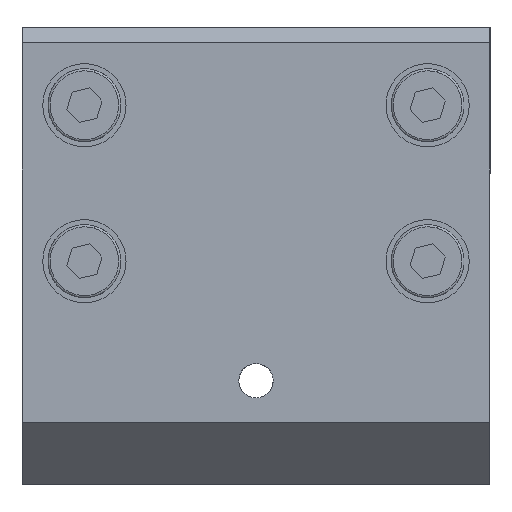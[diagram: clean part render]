
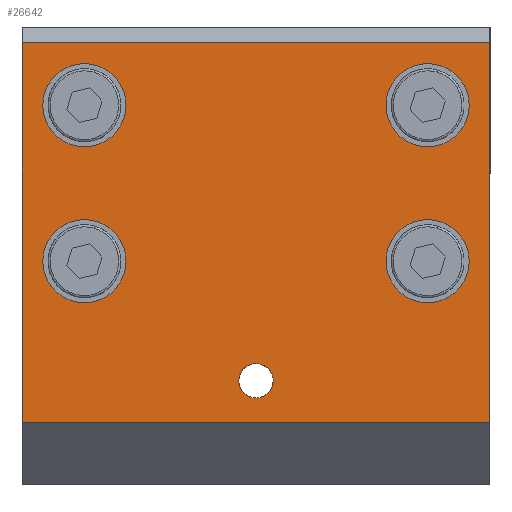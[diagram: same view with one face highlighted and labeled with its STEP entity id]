
A CAD part, front view. The second image highlights one B-rep face of the part: STEP entity #26642.
In plain terms, the highlighted planar face has unit normal (0, -1, 0).
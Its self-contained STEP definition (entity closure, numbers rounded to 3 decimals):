
#184 = CARTESIAN_POINT ( 'NONE',  ( -18.104, 9.692, 14.5 ) ) ;
#699 = EDGE_LOOP ( 'NONE', ( #26012, #5736 ) ) ;
#1415 = VERTEX_POINT ( 'NONE', #32617 ) ;
#1575 = AXIS2_PLACEMENT_3D ( 'NONE', #5884, #29710, #9316 ) ;
#1668 = EDGE_CURVE ( 'NONE', #6501, #25257, #25889, .T. ) ;
#1723 = VERTEX_POINT ( 'NONE', #20268 ) ;
#1837 = EDGE_CURVE ( 'NONE', #33909, #3463, #18391, .T. ) ;
#1954 = AXIS2_PLACEMENT_3D ( 'NONE', #39859, #19525, #43298 ) ;
#2159 = CIRCLE ( 'NONE', #6984, 4. ) ;
#2982 = CARTESIAN_POINT ( 'NONE',  ( -14.104, 9.692, -0.5 ) ) ;
#3091 = AXIS2_PLACEMENT_3D ( 'NONE', #14027, #37805, #17425 ) ;
#3324 = CIRCLE ( 'NONE', #41793, 4. ) ;
#3463 = VERTEX_POINT ( 'NONE', #12792 ) ;
#3598 = DIRECTION ( 'NONE',  ( 1., 0., 0. ) ) ;
#4344 = EDGE_CURVE ( 'NONE', #31093, #19031, #12088, .T. ) ;
#4863 = VECTOR ( 'NONE', #25915, 1000. ) ;
#5647 = CARTESIAN_POINT ( 'NONE',  ( -34.604, 9.692, 20.5 ) ) ;
#5736 = ORIENTED_EDGE ( 'NONE', *, *, #22555, .T. ) ;
#5754 = DIRECTION ( 'NONE',  ( 0., 1., 0. ) ) ;
#5884 = CARTESIAN_POINT ( 'NONE',  ( -57.104, 9.692, 20.5 ) ) ;
#5961 = LINE ( 'NONE', #5647, #4863 ) ;
#6501 = VERTEX_POINT ( 'NONE', #18284 ) ;
#6769 = EDGE_CURVE ( 'NONE', #8895, #1723, #22397, .T. ) ;
#6984 = AXIS2_PLACEMENT_3D ( 'NONE', #26171, #5754, #29585 ) ;
#7314 = CARTESIAN_POINT ( 'NONE',  ( -18.104, 9.692, 14.5 ) ) ;
#7917 = FACE_BOUND ( 'NONE', #699, .T. ) ;
#7954 = CARTESIAN_POINT ( 'NONE',  ( -51.104, 9.692, -0.5 ) ) ;
#8054 = CARTESIAN_POINT ( 'NONE',  ( -55.104, 9.692, 14.5 ) ) ;
#8895 = VERTEX_POINT ( 'NONE', #8054 ) ;
#9316 = DIRECTION ( 'NONE',  ( 0., 0., -1. ) ) ;
#9901 = DIRECTION ( 'NONE',  ( 0., 1., 0. ) ) ;
#10044 = CIRCLE ( 'NONE', #3091, 1.65 ) ;
#10056 = CARTESIAN_POINT ( 'NONE',  ( -57.104, 9.692, 20.5 ) ) ;
#10769 = DIRECTION ( 'NONE',  ( 1., 0., 0. ) ) ;
#11482 = DIRECTION ( 'NONE',  ( 0., 1., 0. ) ) ;
#12056 = DIRECTION ( 'NONE',  ( 0., 0., -1. ) ) ;
#12088 = CIRCLE ( 'NONE', #25545, 4. ) ;
#12792 = CARTESIAN_POINT ( 'NONE',  ( -47.104, 9.692, -0.5 ) ) ;
#13567 = EDGE_CURVE ( 'NONE', #35079, #1415, #18353, .T. ) ;
#13646 = LINE ( 'NONE', #22211, #21647 ) ;
#14027 = CARTESIAN_POINT ( 'NONE',  ( -34.604, 9.692, -12. ) ) ;
#14202 = CIRCLE ( 'NONE', #15231, 4. ) ;
#15231 = AXIS2_PLACEMENT_3D ( 'NONE', #7314, #31168, #10769 ) ;
#15809 = ORIENTED_EDGE ( 'NONE', *, *, #22964, .T. ) ;
#15990 = PLANE ( 'NONE',  #1575 ) ;
#16131 = EDGE_CURVE ( 'NONE', #6501, #42276, #43928, .T. ) ;
#16357 = CARTESIAN_POINT ( 'NONE',  ( -34.604, 9.692, -16. ) ) ;
#16754 = EDGE_CURVE ( 'NONE', #3463, #33909, #19407, .T. ) ;
#16988 = FACE_BOUND ( 'NONE', #38699, .T. ) ;
#17425 = DIRECTION ( 'NONE',  ( 0., 0., 1. ) ) ;
#17838 = VECTOR ( 'NONE', #43626, 1000. ) ;
#18284 = CARTESIAN_POINT ( 'NONE',  ( -57.104, 9.692, -16. ) ) ;
#18353 = CIRCLE ( 'NONE', #20056, 4. ) ;
#18391 = CIRCLE ( 'NONE', #35417, 4. ) ;
#18990 = DIRECTION ( 'NONE',  ( 0., 1., 0. ) ) ;
#19031 = VERTEX_POINT ( 'NONE', #40613 ) ;
#19406 = EDGE_CURVE ( 'NONE', #1723, #8895, #2159, .T. ) ;
#19407 = CIRCLE ( 'NONE', #27933, 4. ) ;
#19525 = DIRECTION ( 'NONE',  ( 0., -1., 0. ) ) ;
#19890 = EDGE_LOOP ( 'NONE', ( #24388, #31300 ) ) ;
#20048 = CIRCLE ( 'NONE', #1954, 1.65 ) ;
#20056 = AXIS2_PLACEMENT_3D ( 'NONE', #184, #24086, #3598 ) ;
#20085 = DIRECTION ( 'NONE',  ( 0., 1., 0. ) ) ;
#20268 = CARTESIAN_POINT ( 'NONE',  ( -47.104, 9.692, 14.5 ) ) ;
#21647 = VECTOR ( 'NONE', #12056, 1000. ) ;
#22211 = CARTESIAN_POINT ( 'NONE',  ( -12.104, 9.692, 0. ) ) ;
#22278 = ORIENTED_EDGE ( 'NONE', *, *, #16131, .F. ) ;
#22397 = CIRCLE ( 'NONE', #38391, 4. ) ;
#22555 = EDGE_CURVE ( 'NONE', #19031, #31093, #3324, .T. ) ;
#22802 = DIRECTION ( 'NONE',  ( 0., 1., 0. ) ) ;
#22964 = EDGE_CURVE ( 'NONE', #28113, #42276, #5961, .T. ) ;
#24086 = DIRECTION ( 'NONE',  ( 0., 1., 0. ) ) ;
#24184 = EDGE_LOOP ( 'NONE', ( #29212, #36090 ) ) ;
#24388 = ORIENTED_EDGE ( 'NONE', *, *, #42348, .F. ) ;
#25257 = VERTEX_POINT ( 'NONE', #43971 ) ;
#25545 = AXIS2_PLACEMENT_3D ( 'NONE', #39334, #18990, #42776 ) ;
#25889 = LINE ( 'NONE', #16357, #43962 ) ;
#25915 = DIRECTION ( 'NONE',  ( -1., 0., 0. ) ) ;
#26012 = ORIENTED_EDGE ( 'NONE', *, *, #4344, .T. ) ;
#26080 = FACE_BOUND ( 'NONE', #24184, .T. ) ;
#26171 = CARTESIAN_POINT ( 'NONE',  ( -51.104, 9.692, 14.5 ) ) ;
#26504 = ORIENTED_EDGE ( 'NONE', *, *, #13567, .T. ) ;
#26554 = CARTESIAN_POINT ( 'NONE',  ( -55.104, 9.692, -0.5 ) ) ;
#26642 = ADVANCED_FACE ( 'NONE', ( #26080, #7917, #16988, #35085, #43071, #34021 ), #15990, .T. ) ;
#27528 = VERTEX_POINT ( 'NONE', #38676 ) ;
#27753 = EDGE_CURVE ( 'NONE', #27528, #29375, #20048, .T. ) ;
#27933 = AXIS2_PLACEMENT_3D ( 'NONE', #40440, #20085, #43851 ) ;
#28113 = VERTEX_POINT ( 'NONE', #35349 ) ;
#29169 = ORIENTED_EDGE ( 'NONE', *, *, #1668, .T. ) ;
#29212 = ORIENTED_EDGE ( 'NONE', *, *, #19406, .T. ) ;
#29276 = DIRECTION ( 'NONE',  ( 1., 0., 0. ) ) ;
#29375 = VERTEX_POINT ( 'NONE', #33036 ) ;
#29585 = DIRECTION ( 'NONE',  ( 1., 0., 0. ) ) ;
#29710 = DIRECTION ( 'NONE',  ( 0., -1., 0. ) ) ;
#30247 = EDGE_CURVE ( 'NONE', #28113, #25257, #13646, .T. ) ;
#30289 = CARTESIAN_POINT ( 'NONE',  ( -18.104, 9.692, -0.5 ) ) ;
#30550 = EDGE_LOOP ( 'NONE', ( #22278, #29169, #36044, #15809 ) ) ;
#30800 = ORIENTED_EDGE ( 'NONE', *, *, #1837, .T. ) ;
#31093 = VERTEX_POINT ( 'NONE', #2982 ) ;
#31168 = DIRECTION ( 'NONE',  ( 0., 1., 0. ) ) ;
#31300 = ORIENTED_EDGE ( 'NONE', *, *, #27753, .F. ) ;
#31881 = CARTESIAN_POINT ( 'NONE',  ( -51.104, 9.692, 14.5 ) ) ;
#32617 = CARTESIAN_POINT ( 'NONE',  ( -14.104, 9.692, 14.5 ) ) ;
#33036 = CARTESIAN_POINT ( 'NONE',  ( -34.604, 9.692, -10.35 ) ) ;
#33248 = EDGE_LOOP ( 'NONE', ( #37649, #26504 ) ) ;
#33662 = DIRECTION ( 'NONE',  ( 1., 0., 0. ) ) ;
#33909 = VERTEX_POINT ( 'NONE', #26554 ) ;
#34021 = FACE_OUTER_BOUND ( 'NONE', #30550, .T. ) ;
#34100 = EDGE_CURVE ( 'NONE', #1415, #35079, #14202, .T. ) ;
#35079 = VERTEX_POINT ( 'NONE', #36495 ) ;
#35085 = FACE_BOUND ( 'NONE', #33248, .T. ) ;
#35253 = DIRECTION ( 'NONE',  ( 1., 0., 0. ) ) ;
#35349 = CARTESIAN_POINT ( 'NONE',  ( -12.104, 9.692, 20.5 ) ) ;
#35417 = AXIS2_PLACEMENT_3D ( 'NONE', #7954, #22802, #29276 ) ;
#36044 = ORIENTED_EDGE ( 'NONE', *, *, #30247, .F. ) ;
#36090 = ORIENTED_EDGE ( 'NONE', *, *, #6769, .T. ) ;
#36495 = CARTESIAN_POINT ( 'NONE',  ( -22.104, 9.692, 14.5 ) ) ;
#37649 = ORIENTED_EDGE ( 'NONE', *, *, #34100, .T. ) ;
#37805 = DIRECTION ( 'NONE',  ( 0., -1., 0. ) ) ;
#38391 = AXIS2_PLACEMENT_3D ( 'NONE', #31881, #11482, #35253 ) ;
#38676 = CARTESIAN_POINT ( 'NONE',  ( -34.604, 9.692, -13.65 ) ) ;
#38699 = EDGE_LOOP ( 'NONE', ( #39787, #30800 ) ) ;
#39334 = CARTESIAN_POINT ( 'NONE',  ( -18.104, 9.692, -0.5 ) ) ;
#39787 = ORIENTED_EDGE ( 'NONE', *, *, #16754, .T. ) ;
#39859 = CARTESIAN_POINT ( 'NONE',  ( -34.604, 9.692, -12. ) ) ;
#40440 = CARTESIAN_POINT ( 'NONE',  ( -51.104, 9.692, -0.5 ) ) ;
#40613 = CARTESIAN_POINT ( 'NONE',  ( -22.104, 9.692, -0.5 ) ) ;
#41793 = AXIS2_PLACEMENT_3D ( 'NONE', #30289, #9901, #33662 ) ;
#42276 = VERTEX_POINT ( 'NONE', #10056 ) ;
#42348 = EDGE_CURVE ( 'NONE', #29375, #27528, #10044, .T. ) ;
#42419 = DIRECTION ( 'NONE',  ( 1., 0., 0. ) ) ;
#42776 = DIRECTION ( 'NONE',  ( 1., 0., 0. ) ) ;
#43071 = FACE_BOUND ( 'NONE', #19890, .T. ) ;
#43298 = DIRECTION ( 'NONE',  ( 0., 0., 1. ) ) ;
#43626 = DIRECTION ( 'NONE',  ( 0., 0., 1. ) ) ;
#43767 = CARTESIAN_POINT ( 'NONE',  ( -57.104, 9.692, 0. ) ) ;
#43851 = DIRECTION ( 'NONE',  ( 1., 0., 0. ) ) ;
#43928 = LINE ( 'NONE', #43767, #17838 ) ;
#43962 = VECTOR ( 'NONE', #42419, 1000. ) ;
#43971 = CARTESIAN_POINT ( 'NONE',  ( -12.104, 9.692, -16. ) ) ;
